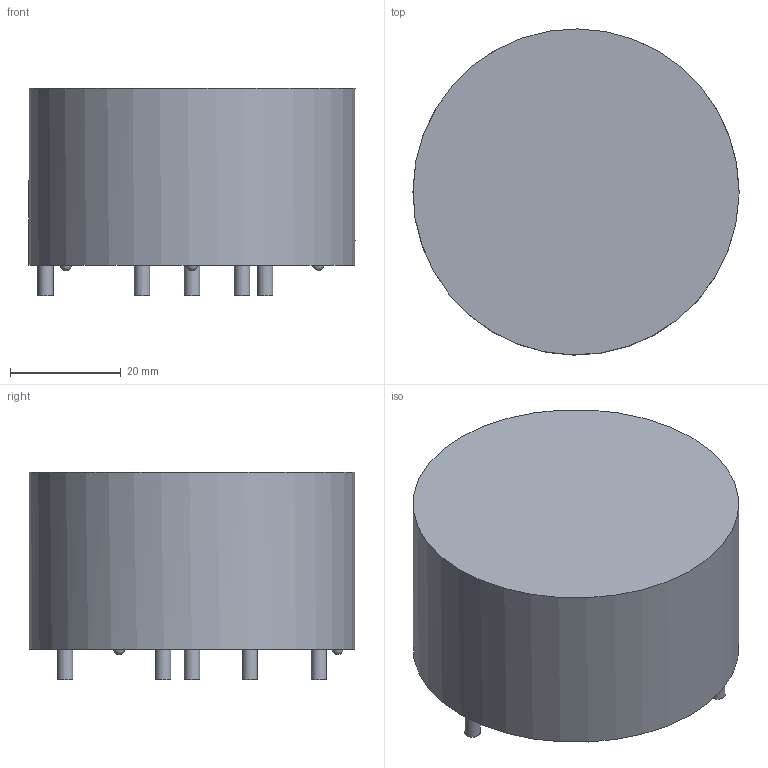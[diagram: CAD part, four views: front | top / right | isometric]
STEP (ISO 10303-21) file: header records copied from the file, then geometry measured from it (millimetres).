
FILE_DESCRIPTION(/* description */ (''),/* implementation_level */ '2;1');
FILE_NAME(/* name */ 'F:\Done\2016\多产品3D模拟\\X2\4FEE653994885F84\X0\\6123-X332\6123-X332 3D Model.stp',/* time_stamp */ '2016-07-11T08:48:29+08:00',/* author */ ('CN000562'),/* organization */ (''),/* preprocessor_version */ 'ST-DEVELOPER v16.5',/* originating_system */ 'Autodesk Inventor 2017',/* authorisation */ '');
FILE_SCHEMA (('AUTOMOTIVE_DESIGN { 1 0 10303 214 3 1 1 }'));
Length unit declared in the file: millimetre
Products named in the file (1): 6123-X316
Bounding box: 59 x 58.99 x 37.5 mm (x, y, z)
Volume: 87689.5 mm3; surface area: 11704 mm2
Topology: 1 solids, 1 shells, 20 faces, 39 edges, 27 vertices
Faces by surface type: plane 9, cylinder 8, sphere 3
Full cylindrical faces by diameter (mm): 2.8 x6, 59 x1
Entity records: 444 total; most frequent: DIRECTION 84, CARTESIAN_POINT 63, ORIENTED_EDGE 44, AXIS2_PLACEMENT_3D 41, EDGE_LOOP 36, EDGE_CURVE 22, FACE_OUTER_BOUND 20, CIRCLE 20
